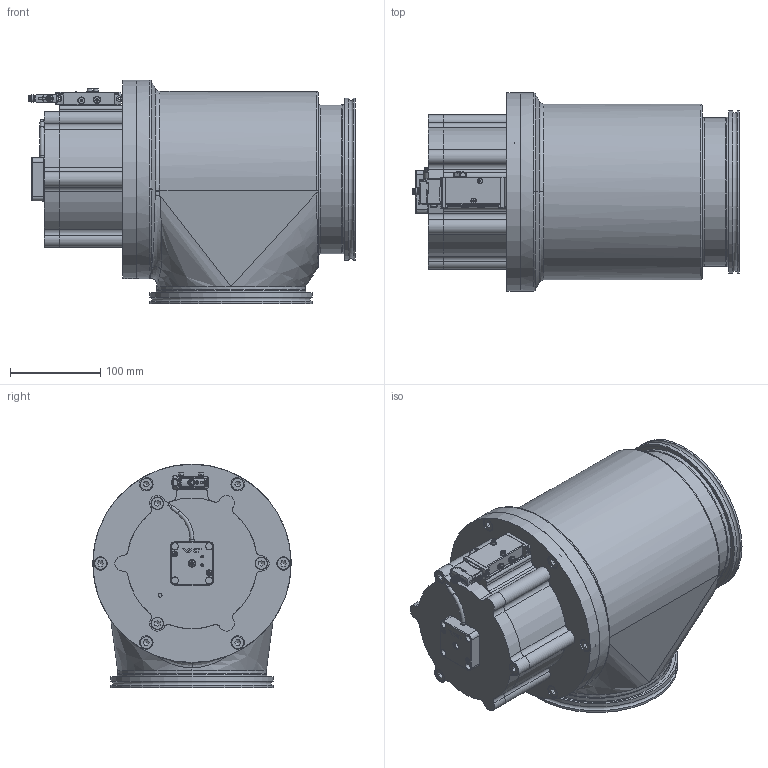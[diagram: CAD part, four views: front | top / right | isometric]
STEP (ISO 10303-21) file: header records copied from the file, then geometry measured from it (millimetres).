
FILE_DESCRIPTION(/* description */ (''),/* implementation_level */ '2;1');
FILE_NAME(/* name */ '1314969084_203.stp',/* time_stamp */ '2016-03-04T11:02:59+01:00',/* author */ (''),/* organization */ (''),/* preprocessor_version */ 'ST-DEVELOPER v15',/* originating_system */ 'SIEMENS PLM Software NX 9.0',/* authorisation */ '');
FILE_SCHEMA (('AP203_CONFIGURATION_CONTROLLED_3D_DESIGN_OF_MECHANICAL_PARTS_AND_ASSEMBLIES_MIM_LF { 1 0 10303 403 2 1 2}'));
Length unit declared in the file: millimetre
Products named in the file (20): 366217; 568561; 571495; n-6134-404.1; n-6005-429.1; 500093_22967ID; n-6121-026.2; 546207_23104ID; 236204_1.1; 233359; 421306; 546196; 546253; 228777; 476060; 573596_MODEL; 500278_MODEL; 546204_MODEL; 421285; 577188
Assembly tree (30 placements, depth 3):
  577188
    476060
    228777  x9
    421285
      421306
      233359
      236204_1.1  x2
    546204_MODEL
      546207_23104ID
      n-6121-026.2
    546253
    500278_MODEL
      500093_22967ID
    546196
    573596_MODEL
      n-6005-429.1  x2
      n-6134-404.1  x2
      571495
      568561
      366217
Bounding box: 362.65 x 220 x 248 mm (x, y, z)
Volume: 2880510.7 mm3; surface area: 656240.8 mm2
Topology: 48 solids, 55 shells, 1602 faces, 3928 edges, 2526 vertices
Faces by surface type: plane 835, cylinder 480, cone 162, torus 60, bspline 51, extrusion 8, sphere 6
Full cylindrical faces by diameter (mm): 1 x2, 1.4 x4, 2.46 x2, 2.5 x7, 2.6 x2, 3 x10, 3.2 x4, 3.8 x1, 3.85 x1, 4 x1, 4.2 x2, 4.5 x3, 5.5 x2, 5.6 x2, 5.8 x1, 6 x3, 6.2 x2, 6.5 x2, 6.66 x9, 6.7 x9, 6.8 x12, 6.9 x1, 7.2 x1, 7.4 x3, 8 x22, 8.1 x1, 8.4 x1, 8.566 x1, 9 x12, 9.728 x1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
Entity records: 51633 total; most frequent: CARTESIAN_POINT 11683, DIRECTION 6883, ORIENTED_EDGE 6416, EDGE_CURVE 3208, AXIS2_PLACEMENT_3D 2611, VERTEX_POINT 2201, EDGE_LOOP 1835, VECTOR 1661
